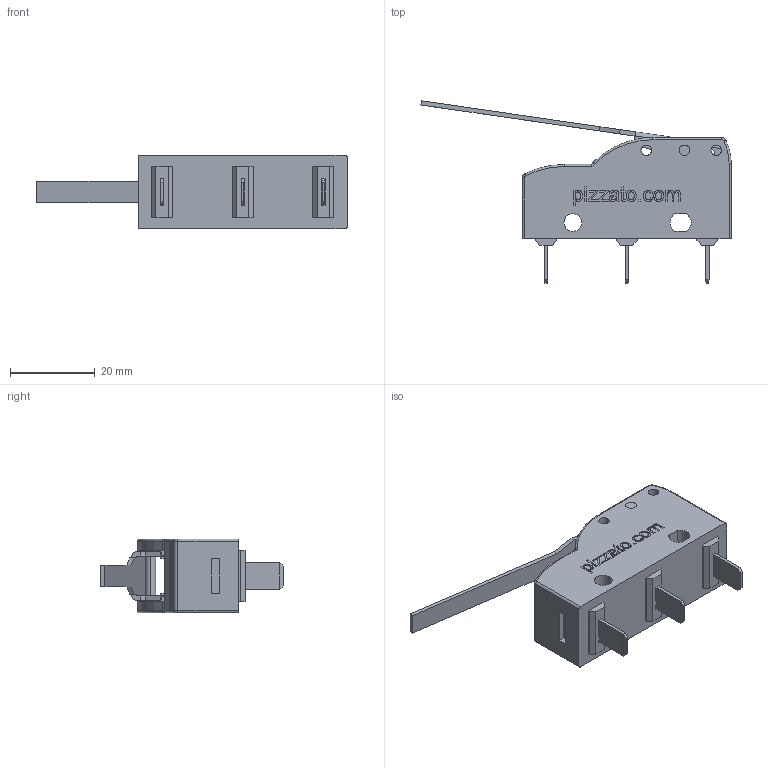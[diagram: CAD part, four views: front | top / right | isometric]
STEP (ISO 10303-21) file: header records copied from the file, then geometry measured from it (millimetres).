
FILE_DESCRIPTION (( 'STEP AP203' ), '1' );
FILE_NAME ('ZF_STEP_MK_HxxD30_A08.STEP', '2009-02-19T09:11:59', ( 'mario' ), ( '' ), 'SwSTEP 2.0', 'SolidWorks 2009', '' );
FILE_SCHEMA (( 'CONFIG_CONTROL_DESIGN' ));
Length unit declared in the file: millimetre
Products named in the file (4): Pizzato_Perno Leva; Pizzato_Custodia_MK_MKH_Leva; Pizzato_Leva_MK30_MK30; ZF_STEP_MK_HxxD30_A08
Assembly tree (3 placements, depth 2):
  ZF_STEP_MK_HxxD30_A08
    Pizzato_Perno Leva
    Pizzato_Leva_MK30_MK30
    Pizzato_Custodia_MK_MKH_Leva
Bounding box: 73.11 x 43 x 17.4 mm (x, y, z)
Volume: 16201 mm3; surface area: 7387.8 mm2
Topology: 3 solids, 3 shells, 456 faces, 1202 edges, 790 vertices
Faces by surface type: plane 296, cylinder 81, bspline 69, torus 10
Entity records: 17780 total; most frequent: CARTESIAN_POINT 6353, ORIENTED_EDGE 2404, DIRECTION 2022, EDGE_CURVE 1202, VECTOR 888, LINE 888, VERTEX_POINT 790, AXIS2_PLACEMENT_3D 567
